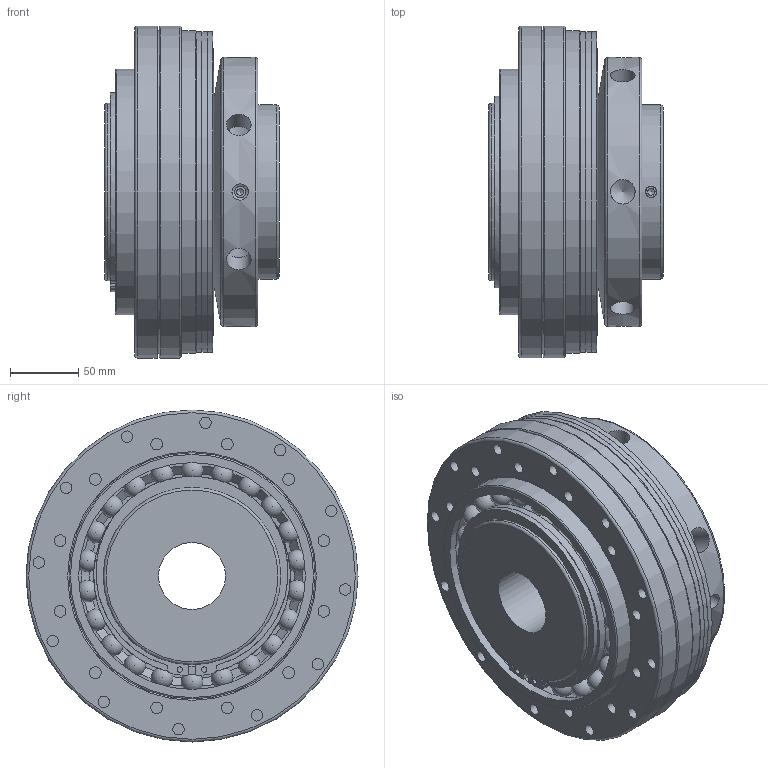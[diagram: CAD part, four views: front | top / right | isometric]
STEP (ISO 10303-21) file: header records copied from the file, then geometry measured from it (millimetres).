
FILE_DESCRIPTION(/* description */ ('Unknown'),/* implementation_level */ '2;1');
FILE_NAME(/* name */ 'SKW 9000',/* time_stamp */ '2018-01-30T13:44:20+01:00',/* author */ ('Unknown'),/* organization */ ('Unknown'),/* preprocessor_version */ 'ST-DEVELOPER v16.7',/* originating_system */ 'DEX',/* authorisation */ $);
FILE_SCHEMA (('AUTOMOTIVE_DESIGN {1 0 10303 214 3 1 1}'));
Length unit declared in the file: millimetre
Products named in the file (1): SKW 9000
Bounding box: 128 x 243 x 243 mm (x, y, z)
Volume: 3665601.5 mm3; surface area: 390751.8 mm2
Topology: 24 solids, 25 shells, 268 faces, 607 edges, 387 vertices
Faces by surface type: plane 114, cylinder 74, cone 38, sphere 22, torus 20
Full cylindrical faces by diameter (mm): 4 x2, 8.376 x16, 8.5 x14, 12 x2, 18 x6, 49 x1, 126 x1, 128 x1, 129.8 x1, 130 x2, 135 x1, 136 x1, 144 x2, 150 x1, 165 x1, 166 x2, 180 x2, 197 x1, 234.537 x2, 236 x2, 236.5 x2, 243 x2
Entity records: 6213 total; most frequent: CARTESIAN_POINT 1103, DIRECTION 1094, ORIENTED_EDGE 704, AXIS2_PLACEMENT_3D 485, FACE_BOUND 454, EDGE_LOOP 422, EDGE_CURVE 352, VERTEX_POINT 312
